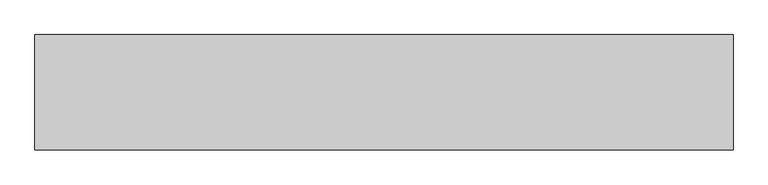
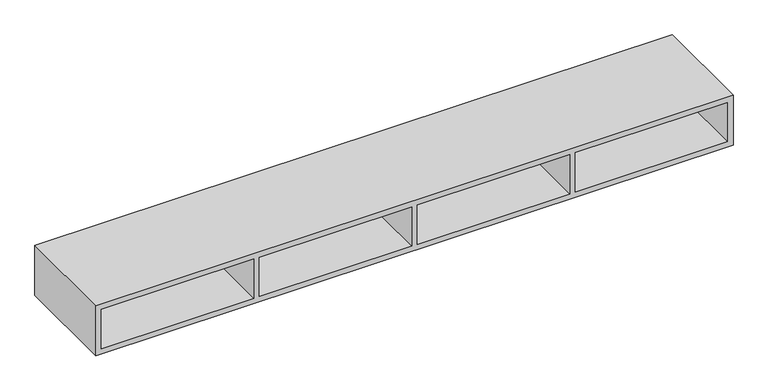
"""IFC4 building model written with IfcOpenShell, lengths in millimetres: furniture geometry."""

from ifc_helpers import new_model, si_unit, origin, place, context, project, spatial, faceted_brep, source, transform, mapped, element, save


def furniture_9b227c38(model_context):
    return source(origin(), model_context, "Body", "Brep", [
        faceted_brep([(20.1673737, 32.7150845, 1620.3676643), (20.1673737, 32.7150845, 1769.5164093), (2264.8166263, 32.7150845, 1769.5164093), (2264.8166263, 32.7150845, 1620.3676643), (1132.4084682, -320.802, 1620.3676643), (1132.4084682, -320.802, 1769.5164093), (1132.4084682, 12.5477108, 1769.5164093), (1132.4084682, 12.5477108, 1620.3676643), (0.0, -320.802, 1789.6840736), (0.0, -320.802, 1600.2), (2284.984, -320.802, 1600.2), (2284.984, -320.802, 1789.6840736), (586.4096868, -320.802, 1620.3676643), (586.4096868, -320.802, 1769.5164093), (1152.5755318, -320.802, 1620.3676643), (1152.5755318, -320.802, 1769.5164093), (1698.5743132, -320.802, 1769.5164093), (1698.5743132, -320.802, 1620.3676643), (2264.8166263, -320.802, 1769.5164093), (2264.8166263, -320.802, 1620.3676643), (1718.7416868, -320.802, 1620.3676643), (1718.7416868, -320.802, 1769.5164093), (20.1673737, -320.802, 1620.3676643), (20.1673737, -320.802, 1769.5164093), (566.2423132, -320.802, 1769.5164093), (566.2423132, -320.802, 1620.3676643), (1152.5755318, 12.5477108, 1620.3676643), (1152.5755318, 12.5477108, 1769.5164093), (586.4096868, 12.5477108, 1620.3676643), (1698.5743132, 12.5477108, 1620.3676643), (2264.8166263, 12.5477108, 1620.3676643), (1718.7416868, 12.5477108, 1620.3676643), (566.2423132, 12.5477108, 1620.3676643), (20.1673737, 12.5477108, 1620.3676643), (2264.8166263, 57.15, 1620.3676643), (20.1673737, 57.15, 1620.3676643), (0.0, 57.15, 1600.2), (2284.984, 57.15, 1600.2), (0.0, 57.15, 1789.6840736), (2284.984, 57.15, 1789.6840736), (2264.8166263, 57.15, 1769.5164093), (20.1673737, 57.15, 1769.5164093), (20.1673737, 12.5477108, 1769.5164093), (2264.8166263, 12.5477108, 1769.5164093), (586.4096868, 12.5477108, 1769.5164093), (1698.5743132, 12.5477108, 1769.5164093), (1718.7416868, 12.5477108, 1769.5164093), (566.2423132, 12.5477108, 1769.5164093)], [[[0, 1, 2, 3]], [[4, 5, 6, 7]], [[8, 9, 10, 11], [5, 4, 12, 13], [14, 15, 16, 17], [18, 19, 20, 21], [22, 23, 24, 25]], [[15, 14, 26, 27]], [[12, 4, 7, 28]], [[14, 17, 29, 26]], [[20, 19, 30, 31]], [[22, 25, 32, 33]], [[34, 35, 0, 3]], [[9, 36, 37, 10]], [[36, 38, 39, 37], [35, 34, 40, 41]], [[38, 8, 11, 39]], [[8, 38, 36, 9]], [[23, 22, 33, 42]], [[35, 41, 1, 0]], [[39, 11, 10, 37]], [[19, 18, 43, 30]], [[40, 34, 3, 2]], [[5, 13, 44, 6]], [[16, 15, 27, 45]], [[18, 21, 46, 43]], [[24, 23, 42, 47]], [[41, 40, 2, 1]], [[25, 24, 47, 32]], [[13, 12, 28, 44]], [[17, 16, 45, 29]], [[21, 20, 31, 46]], [[7, 6, 44, 28]], [[27, 26, 29, 45]], [[33, 32, 47, 42]], [[31, 30, 43, 46]]]),
    ])


if __name__ == "__main__":
    model = new_model("IFC4")
    model_context = context("Model", 3, world=origin())
    ifc_project = project(units=[si_unit("LENGTHUNIT", "METRE", prefix="MILLI")], contexts=[model_context])
    site = spatial("IfcSite", under=ifc_project)
    building = spatial("IfcBuilding", under=site)
    placement = place(None, origin())
    furniture_shape = furniture_9b227c38(model_context)
    element("IfcFurniture", 1, ObjectType="Steelcase - Elective Elements - Shelf - Organizer with Divider : 15\" D x 90\" W", at=placement, inside=building, context=model_context, shape_type="MappedRepresentation", body=[
        mapped(furniture_shape, transform((0.0, 0.0, 0.0), x_axis=(1.0, 0.0, 0.0), y_axis=(0.0, 1.0, 0.0), z_axis=(0.0, 0.0, 1.0))),
    ])
    save(model, "model.ifc")
